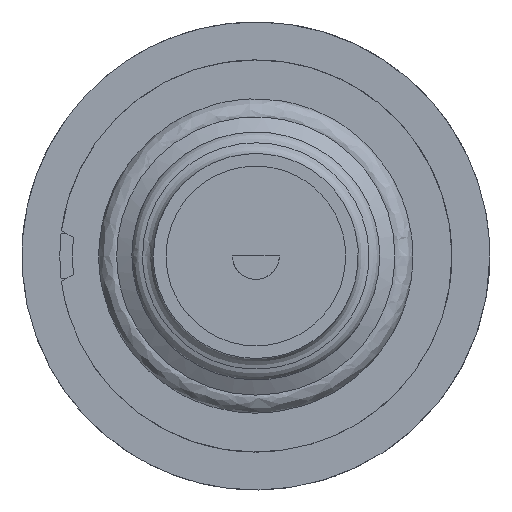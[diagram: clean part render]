
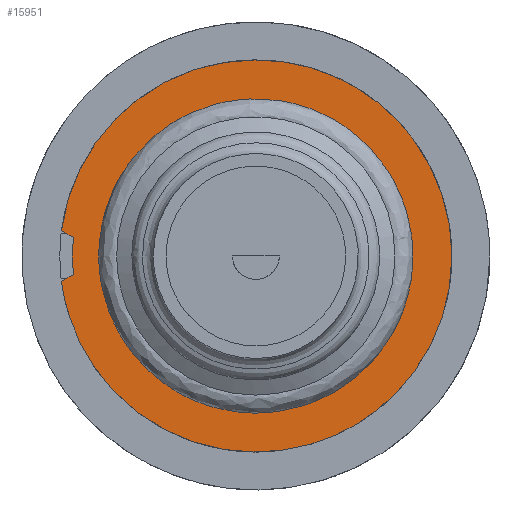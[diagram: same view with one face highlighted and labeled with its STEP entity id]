
A CAD part, front view. The second image highlights one B-rep face of the part: STEP entity #15951.
In plain terms, the highlighted free-form (B-spline) face has degree [1, 1] with [2, 2] control points.
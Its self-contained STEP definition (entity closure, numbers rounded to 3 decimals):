
#15761=CARTESIAN_POINT('V51',(-15.37,-5.0,2.0));
#15762=VERTEX_POINT('V51',#15761);
#15768=CARTESIAN_POINT('V52',(-15.37,-5.0,-2.0));
#15769=VERTEX_POINT('V52',#15768);
#15770=CARTESIAN_POINT('E70',(-15.37,-5.0,2.0));
#15771=CARTESIAN_POINT('E70',(-12.372,-5.0,
   25.041));
#15772=CARTESIAN_POINT('E70',(7.75,-5.0,
   13.423));
#15773=CARTESIAN_POINT('E70',(31.0,-5.0,0.));
#15774=CARTESIAN_POINT('E70',(7.75,-5.0,
   -13.423));
#15775=CARTESIAN_POINT('E70',(-12.372,-5.0,
   -25.041));
#15776=CARTESIAN_POINT('E70',(-15.37,-5.0,-2.0));
#15784=(BOUNDED_CURVE()B_SPLINE_CURVE(2,(#15770,#15771,#15772,
   #15773,#15774,#15775,#15776),.CIRCULAR_ARC.,.F.,.U.)
   B_SPLINE_CURVE_WITH_KNOTS((3,2,2,3),(1.291,
   17.898,35.796,52.403),
   .UNSPECIFIED.)CURVE()GEOMETRIC_REPRESENTATION_ITEM()
   RATIONAL_B_SPLINE_CURVE((0.933,0.536,
   1.0,0.5,1.0,0.536,0.933))
   REPRESENTATION_ITEM('E70'));
#15785=EDGE_CURVE('E70',#15762,#15769,#15784,.T.);
#15811=CARTESIAN_POINT('V751',(-14.427,-5.0,
   -1.455));
#15812=VERTEX_POINT('V751',#15811);
#15820=CARTESIAN_POINT('V749',(-14.427,-5.0,
   1.455));
#15821=VERTEX_POINT('V749',#15820);
#15822=CARTESIAN_POINT('E1166',(-14.427,-5.0,
   1.455));
#15823=CARTESIAN_POINT('E1166',(-14.574,-5.0,
   0.));
#15824=CARTESIAN_POINT('E1166',(-14.427,-5.0,
   -1.455));
#15832=(BOUNDED_CURVE()B_SPLINE_CURVE(2,(#15822,#15823,#15824),
   .CIRCULAR_ARC.,.F.,.U.)CURVE()GEOMETRIC_REPRESENTATION_ITEM()
   QUASI_UNIFORM_CURVE()RATIONAL_B_SPLINE_CURVE((1.0,
   0.995,1.0))REPRESENTATION_ITEM('E1166'));
#15833=EDGE_CURVE('E1166',#15821,#15812,#15832,.T.);
#15864=CARTESIAN_POINT('E1163',(-15.37,-5.0,2.0));
#15865=CARTESIAN_POINT('E1163',(-14.427,-5.0,
   1.455));
#15866=QUASI_UNIFORM_CURVE('E1163',1,(#15864,#15865),.POLYLINE_FORM.,
   .F.,.U.);
#15867=EDGE_CURVE('E1163',#15762,#15821,#15866,.T.);
#15909=CARTESIAN_POINT('E1169',(-14.427,-5.0,
   -1.455));
#15910=CARTESIAN_POINT('E1169',(-15.37,-5.0,-2.0));
#15911=QUASI_UNIFORM_CURVE('E1169',1,(#15909,#15910),.POLYLINE_FORM.,
   .F.,.U.);
#15912=EDGE_CURVE('E1169',#15812,#15769,#15911,.T.);
#15919=CARTESIAN_POINT('F440',(17.05,-5.0,
   -17.05));
#15920=CARTESIAN_POINT('F440',(17.05,-5.0,
   17.05));
#15921=CARTESIAN_POINT('F440',(-17.05,-5.0,
   -17.05));
#15922=CARTESIAN_POINT('F440',(-17.05,-5.0,
   17.05));
#15923=QUASI_UNIFORM_SURFACE('F440',1,1,((#15919,#15921),(#15920,
   #15922)),.PLANE_SURF.,.F.,.F.,.U.);
#15924=ORIENTED_EDGE('E1169',*,*,#15912,.T.);
#15925=ORIENTED_EDGE('E70',*,*,#15785,.F.);
#15926=ORIENTED_EDGE('E1163',*,*,#15867,.T.);
#15927=ORIENTED_EDGE('E1166',*,*,#15833,.T.);
#15928=EDGE_LOOP('F440',(#15924,#15925,#15926,#15927));
#15929=FACE_OUTER_BOUND('F440',#15928,.T.);
#15930=CARTESIAN_POINT('V753',(11.11,-5.,
   0.0));
#15931=VERTEX_POINT('V753',#15930);
#15932=CARTESIAN_POINT('E1179',(11.11,
   -5.,0.0));
#15933=CARTESIAN_POINT('E1179',(11.11,
   -5.,19.243));
#15934=CARTESIAN_POINT('E1179',(-5.555,
   -5.,9.622));
#15935=CARTESIAN_POINT('E1179',(-22.22,
   -5.,0.));
#15936=CARTESIAN_POINT('E1179',(-5.555,
   -5.,-9.622));
#15937=CARTESIAN_POINT('E1179',(11.11,
   -5.,-19.243));
#15938=CARTESIAN_POINT('E1179',(11.11,
   -5.,0.0));
#15946=(BOUNDED_CURVE()B_SPLINE_CURVE(2,(#15932,#15933,#15934,
   #15935,#15936,#15937,#15938),.CIRCULAR_ARC.,.T.,.U.)
   B_SPLINE_CURVE_WITH_KNOTS((3,2,2,3),(0.0,0.333,
   0.667,1.0),.UNSPECIFIED.)CURVE()
   GEOMETRIC_REPRESENTATION_ITEM()RATIONAL_B_SPLINE_CURVE((1.0,
   0.5,1.0,0.5,1.0,0.5,1.0)
   )REPRESENTATION_ITEM('E1179'));
#15947=EDGE_CURVE('E1179',#15931,#15931,#15946,.T.);
#15948=ORIENTED_EDGE('E1179',*,*,#15947,.F.);
#15949=EDGE_LOOP('F440',(#15948));
#15950=FACE_BOUND('F440',#15949,.T.);
#15951=ADVANCED_FACE('F440',(#15929,#15950),#15923,.T.);
